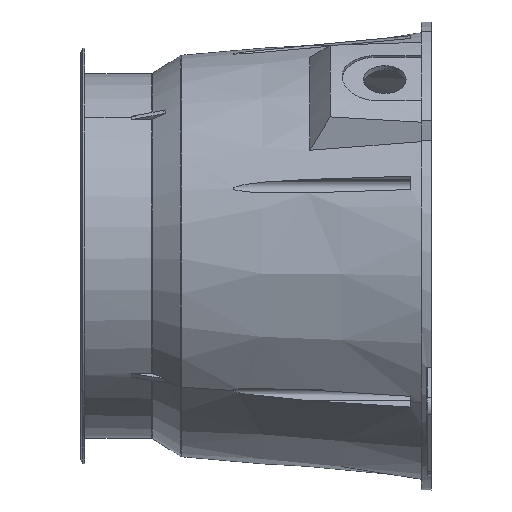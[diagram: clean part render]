
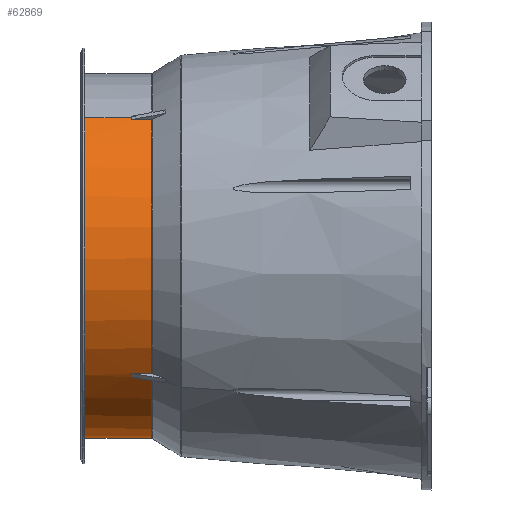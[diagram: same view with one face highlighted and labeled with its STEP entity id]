
A CAD part, left-side view. The second image highlights one B-rep face of the part: STEP entity #62869.
In plain terms, the highlighted cylindrical face has radius 90 mm (diameter 180 mm), a partial arc.
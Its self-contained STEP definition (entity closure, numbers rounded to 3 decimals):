
#52616=CARTESIAN_POINT('',(0.,32.5,0.));
#52617=DIRECTION('',(0.,-1.,0.));
#52618=DIRECTION('',(-1.,0.,0.));
#52619=AXIS2_PLACEMENT_3D('',#52616,#52617,#52618);
#52636=DIRECTION('',(0.,1.,0.));
#52637=VECTOR('',#52636,9.966);
#52638=CARTESIAN_POINT('',(-1.25,-0.499,-89.991));
#52639=LINE('',#52638,#52637);
#52640=DIRECTION('',(0.,-1.,0.));
#52641=VECTOR('',#52640,9.966);
#52642=CARTESIAN_POINT('',(1.257,9.467,
-89.991));
#52643=LINE('',#52642,#52641);
#52644=DIRECTION('',(0.,1.,0.));
#52645=VECTOR('',#52644,9.966);
#52646=CARTESIAN_POINT('',(89.991,-0.499,-1.25));
#52647=LINE('',#52646,#52645);
#52648=DIRECTION('',(0.,-1.,0.));
#52649=VECTOR('',#52648,23.033);
#52650=CARTESIAN_POINT('',(-90.,32.5,0.));
#52651=LINE('',#52650,#52649);
#52652=DIRECTION('',(0.,-1.,0.));
#52653=VECTOR('',#52652,9.966);
#52654=CARTESIAN_POINT('',(-89.991,9.467,
-1.257));
#52655=LINE('',#52654,#52653);
#52656=CARTESIAN_POINT('',(0.,-0.499,0.));
#52657=DIRECTION('',(0.,1.,0.));
#52658=DIRECTION('',(-0.014,0.,-1.));
#52659=AXIS2_PLACEMENT_3D('',#52656,#52657,#52658);
#52679=CARTESIAN_POINT('',(0.,9.467,0.));
#52680=DIRECTION('',(0.,1.,0.));
#52681=DIRECTION('',(-1.,0.,-0.014));
#52682=AXIS2_PLACEMENT_3D('',#52679,#52680,#52681);
#52701=DIRECTION('',(0.,-1.,0.));
#52702=VECTOR('',#52701,23.033);
#52703=CARTESIAN_POINT('',(90.,32.5,0.));
#52704=LINE('',#52703,#52702);
#52732=CARTESIAN_POINT('',(0.,9.467,0.));
#52733=DIRECTION('',(0.,1.,0.));
#52734=DIRECTION('',(1.,0.,0.));
#52735=AXIS2_PLACEMENT_3D('',#52732,#52733,#52734);
#52764=CARTESIAN_POINT('',(0.,-0.499,0.));
#52765=DIRECTION('',(0.,1.,0.));
#52766=DIRECTION('',(1.,0.,-0.014));
#52767=AXIS2_PLACEMENT_3D('',#52764,#52765,#52766);
#52787=CARTESIAN_POINT('',(0.,9.467,0.));
#52788=DIRECTION('',(0.,1.,0.));
#52789=DIRECTION('',(0.014,0.,-1.));
#52790=AXIS2_PLACEMENT_3D('',#52787,#52788,#52789);
#56188=CARTESIAN_POINT('',(-90.,32.5,0.));
#56189=CARTESIAN_POINT('',(90.,32.5,0.));
#56190=VERTEX_POINT('',#56188);
#56191=VERTEX_POINT('',#56189);
#56192=CARTESIAN_POINT('',(-1.25,-0.499,-89.991));
#56193=CARTESIAN_POINT('',(-89.991,-0.499,
-1.257));
#56194=VERTEX_POINT('',#56192);
#56195=VERTEX_POINT('',#56193);
#56196=CARTESIAN_POINT('',(-1.25,9.467,-89.991));
#56197=VERTEX_POINT('',#56196);
#56198=CARTESIAN_POINT('',(1.257,9.467,
-89.991));
#56199=VERTEX_POINT('',#56198);
#56200=CARTESIAN_POINT('',(1.257,-0.499,
-89.991));
#56201=VERTEX_POINT('',#56200);
#56202=CARTESIAN_POINT('',(89.991,-0.499,-1.25));
#56203=VERTEX_POINT('',#56202);
#56204=CARTESIAN_POINT('',(89.991,9.467,-1.25));
#56205=VERTEX_POINT('',#56204);
#56206=CARTESIAN_POINT('',(90.,9.467,0.));
#56207=VERTEX_POINT('',#56206);
#56208=CARTESIAN_POINT('',(-90.,9.467,0.));
#56209=VERTEX_POINT('',#56208);
#56210=CARTESIAN_POINT('',(-89.991,9.467,
-1.257));
#56211=VERTEX_POINT('',#56210);
#62839=CARTESIAN_POINT('',(0.,0.,0.));
#62840=DIRECTION('',(0.,1.,0.));
#62841=DIRECTION('',(1.,0.,0.));
#62842=AXIS2_PLACEMENT_3D('',#62839,#62840,#62841);
#62843=CYLINDRICAL_SURFACE('',#62842,90.);
#62845=ORIENTED_EDGE('',*,*,#62844,.F.);
#62847=ORIENTED_EDGE('',*,*,#62846,.T.);
#62849=ORIENTED_EDGE('',*,*,#62848,.F.);
#62851=ORIENTED_EDGE('',*,*,#62850,.T.);
#62853=ORIENTED_EDGE('',*,*,#62852,.F.);
#62855=ORIENTED_EDGE('',*,*,#62854,.T.);
#62857=ORIENTED_EDGE('',*,*,#62856,.F.);
#62859=ORIENTED_EDGE('',*,*,#62858,.F.);
#62860=ORIENTED_EDGE('',*,*,#62827,.F.);
#62862=ORIENTED_EDGE('',*,*,#62861,.T.);
#62864=ORIENTED_EDGE('',*,*,#62863,.F.);
#62866=ORIENTED_EDGE('',*,*,#62865,.T.);
#62867=EDGE_LOOP('',(#62845,#62847,#62849,#62851,#62853,#62855,#62857,#62859,
#62860,#62862,#62864,#62866));
#62868=FACE_OUTER_BOUND('',#62867,.F.);
#62869=ADVANCED_FACE('',(#62868),#62843,.T.);
#52620=CIRCLE('',#52619,90.);
#52660=CIRCLE('',#52659,90.);
#52683=CIRCLE('',#52682,90.);
#52736=CIRCLE('',#52735,90.);
#52768=CIRCLE('',#52767,90.);
#52791=CIRCLE('',#52790,90.);
#62827=EDGE_CURVE('',#56190,#56191,#52620,.T.);
#62844=EDGE_CURVE('',#56194,#56195,#52660,.T.);
#62846=EDGE_CURVE('',#56194,#56197,#52639,.T.);
#62848=EDGE_CURVE('',#56199,#56197,#52791,.T.);
#62850=EDGE_CURVE('',#56199,#56201,#52643,.T.);
#62852=EDGE_CURVE('',#56203,#56201,#52768,.T.);
#62854=EDGE_CURVE('',#56203,#56205,#52647,.T.);
#62856=EDGE_CURVE('',#56207,#56205,#52736,.T.);
#62858=EDGE_CURVE('',#56191,#56207,#52704,.T.);
#62861=EDGE_CURVE('',#56190,#56209,#52651,.T.);
#62863=EDGE_CURVE('',#56211,#56209,#52683,.T.);
#62865=EDGE_CURVE('',#56211,#56195,#52655,.T.);
